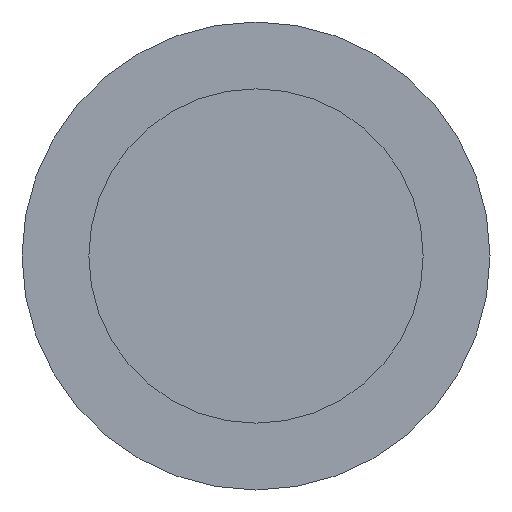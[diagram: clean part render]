
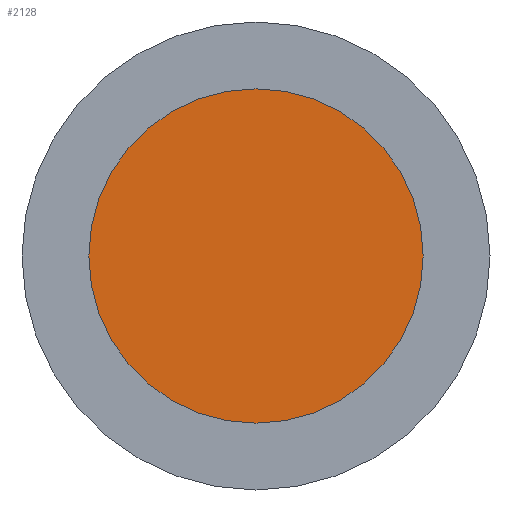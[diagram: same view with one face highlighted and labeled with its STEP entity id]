
A CAD part, left-side view. The second image highlights one B-rep face of the part: STEP entity #2128.
In plain terms, the highlighted planar face has unit normal (-1, 0, 0).
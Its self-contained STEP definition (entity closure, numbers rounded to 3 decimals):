
#33 = CIRCLE ( 'NONE', #1773, 50. ) ;
#159 = DIRECTION ( 'NONE',  ( 0., 0., -1. ) ) ;
#194 = DIRECTION ( 'NONE',  ( 0., 0., -1. ) ) ;
#219 = AXIS2_PLACEMENT_3D ( 'NONE', #3474, #2945, #194 ) ;
#891 = VERTEX_POINT ( 'NONE', #2079 ) ;
#972 = CARTESIAN_POINT ( 'NONE',  ( 0., 0., 0. ) ) ;
#1078 = CARTESIAN_POINT ( 'NONE',  ( 0., 0., 50. ) ) ;
#1118 = ORIENTED_EDGE ( 'NONE', *, *, #2115, .F. ) ;
#1302 = DIRECTION ( 'NONE',  ( 1., 0., 0. ) ) ;
#1344 = EDGE_CURVE ( 'NONE', #891, #2429, #33, .T. ) ;
#1758 = ORIENTED_EDGE ( 'NONE', *, *, #1344, .F. ) ;
#1773 = AXIS2_PLACEMENT_3D ( 'NONE', #2235, #3341, #3033 ) ;
#2079 = CARTESIAN_POINT ( 'NONE',  ( 0., 0., -50. ) ) ;
#2115 = EDGE_CURVE ( 'NONE', #2429, #891, #3097, .T. ) ;
#2128 = ADVANCED_FACE ( 'NONE', ( #2347 ), #2923, .F. ) ;
#2235 = CARTESIAN_POINT ( 'NONE',  ( 0., 0., 0. ) ) ;
#2347 = FACE_OUTER_BOUND ( 'NONE', #2412, .T. ) ;
#2412 = EDGE_LOOP ( 'NONE', ( #1118, #1758 ) ) ;
#2429 = VERTEX_POINT ( 'NONE', #1078 ) ;
#2923 = PLANE ( 'NONE',  #2984 ) ;
#2945 = DIRECTION ( 'NONE',  ( 1., 0., 0. ) ) ;
#2984 = AXIS2_PLACEMENT_3D ( 'NONE', #972, #1302, #159 ) ;
#3033 = DIRECTION ( 'NONE',  ( 0., 0., -1. ) ) ;
#3097 = CIRCLE ( 'NONE', #219, 50. ) ;
#3341 = DIRECTION ( 'NONE',  ( 1., 0., 0. ) ) ;
#3474 = CARTESIAN_POINT ( 'NONE',  ( 0., 0., 0. ) ) ;
